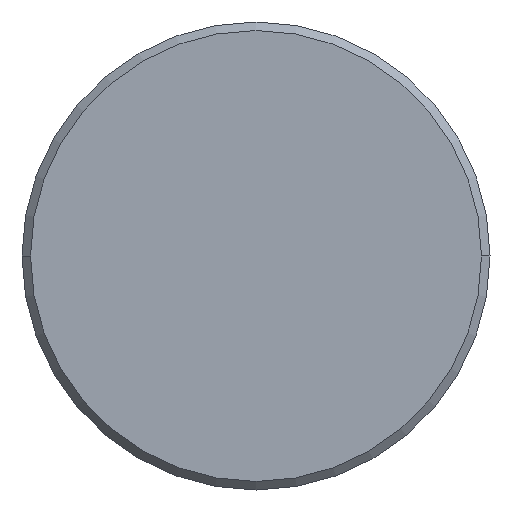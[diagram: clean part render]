
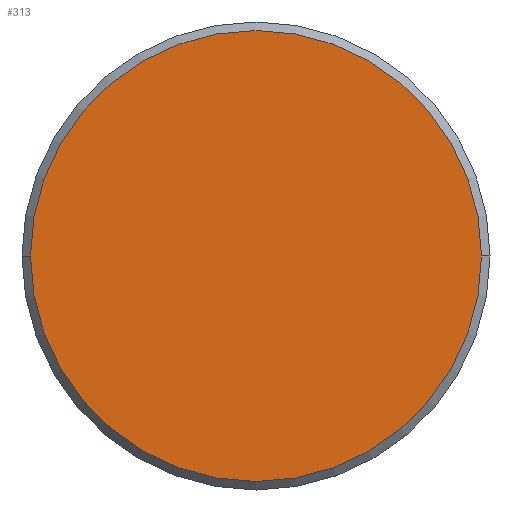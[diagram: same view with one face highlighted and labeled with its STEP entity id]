
A CAD part, left-side view. The second image highlights one B-rep face of the part: STEP entity #313.
In plain terms, the highlighted planar face has unit normal (-1, 0, 0).
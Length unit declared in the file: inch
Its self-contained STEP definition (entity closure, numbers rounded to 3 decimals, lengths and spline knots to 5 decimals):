
#1 = AXIS2_PLACEMENT_3D ( 'NONE', #286, #322, #292 ) ;
#28 = PLANE ( 'NONE',  #182 ) ;
#34 = ORIENTED_EDGE ( 'NONE', *, *, #373, .T. ) ;
#56 = CIRCLE ( 'NONE', #1, 0.10537 ) ;
#62 = DIRECTION ( 'NONE',  ( -1., 0., 0. ) ) ;
#95 = CARTESIAN_POINT ( 'NONE',  ( 0., 0., 0. ) ) ;
#145 = EDGE_CURVE ( 'NONE', #273, #202, #56, .T. ) ;
#154 = CARTESIAN_POINT ( 'NONE',  ( 0., -0.10537, 0. ) ) ;
#156 = DIRECTION ( 'NONE',  ( 0., -1., 0. ) ) ;
#182 = AXIS2_PLACEMENT_3D ( 'NONE', #95, #198, #156 ) ;
#183 = FACE_OUTER_BOUND ( 'NONE', #296, .T. ) ;
#191 = AXIS2_PLACEMENT_3D ( 'NONE', #289, #62, #360 ) ;
#198 = DIRECTION ( 'NONE',  ( -1., 0., 0. ) ) ;
#202 = VERTEX_POINT ( 'NONE', #154 ) ;
#208 = ORIENTED_EDGE ( 'NONE', *, *, #145, .T. ) ;
#241 = CARTESIAN_POINT ( 'NONE',  ( 0., 0.10537, 0. ) ) ;
#245 = CIRCLE ( 'NONE', #191, 0.10537 ) ;
#273 = VERTEX_POINT ( 'NONE', #241 ) ;
#286 = CARTESIAN_POINT ( 'NONE',  ( 0., 0., 0. ) ) ;
#289 = CARTESIAN_POINT ( 'NONE',  ( 0., 0., 0. ) ) ;
#292 = DIRECTION ( 'NONE',  ( 0., -1., 0. ) ) ;
#296 = EDGE_LOOP ( 'NONE', ( #208, #34 ) ) ;
#313 = ADVANCED_FACE ( 'NONE', ( #183 ), #28, .T. ) ;
#322 = DIRECTION ( 'NONE',  ( -1., 0., 0. ) ) ;
#360 = DIRECTION ( 'NONE',  ( 0., -1., 0. ) ) ;
#373 = EDGE_CURVE ( 'NONE', #202, #273, #245, .T. ) ;
